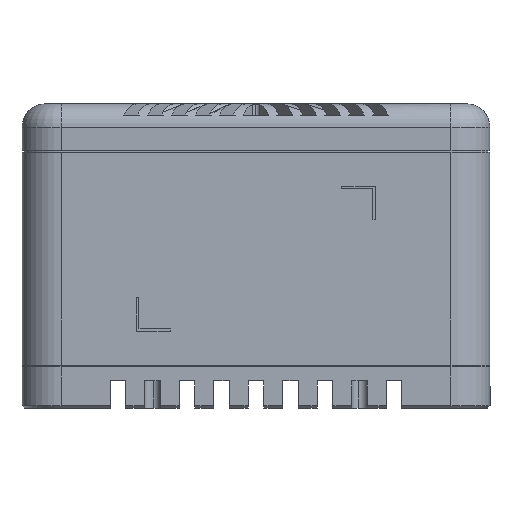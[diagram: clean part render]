
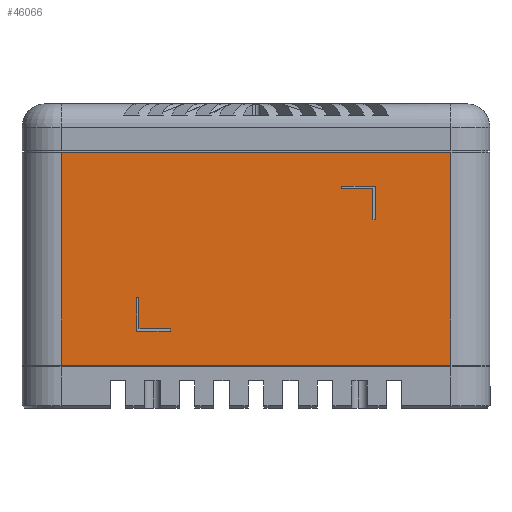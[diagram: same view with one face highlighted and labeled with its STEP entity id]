
A CAD part, left-side view. The second image highlights one B-rep face of the part: STEP entity #46066.
In plain terms, the highlighted planar face has unit normal (-1, 0, 0).
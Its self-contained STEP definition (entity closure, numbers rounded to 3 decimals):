
#241 = VERTEX_POINT ( 'NONE', #110512 ) ;
#2060 = ORIENTED_EDGE ( 'NONE', *, *, #101179, .F. ) ;
#3400 = CARTESIAN_POINT ( 'NONE',  ( -54., -15.3, 18.65 ) ) ;
#6216 = ORIENTED_EDGE ( 'NONE', *, *, #64865, .F. ) ;
#8512 = VECTOR ( 'NONE', #38533, 1000. ) ;
#9793 = DIRECTION ( 'NONE',  ( 0., 0., -1. ) ) ;
#10015 = EDGE_CURVE ( 'NONE', #115707, #59262, #60865, .T. ) ;
#10903 = CARTESIAN_POINT ( 'NONE',  ( -54., 25., 8.65 ) ) ;
#11805 = CARTESIAN_POINT ( 'NONE',  ( -54., -25., 0. ) ) ;
#12273 = VECTOR ( 'NONE', #9793, 1000. ) ;
#12637 = DIRECTION ( 'NONE',  ( 0., 0., 1. ) ) ;
#13362 = CARTESIAN_POINT ( 'NONE',  ( -54., 25., 0. ) ) ;
#13437 = CARTESIAN_POINT ( 'NONE',  ( -54., 15.3, 8.65 ) ) ;
#16083 = LINE ( 'NONE', #119983, #94906 ) ;
#19074 = LINE ( 'NONE', #134924, #53921 ) ;
#19569 = LINE ( 'NONE', #71590, #58634 ) ;
#20244 = EDGE_CURVE ( 'NONE', #25408, #153456, #19569, .T. ) ;
#20631 = VECTOR ( 'NONE', #88202, 1000. ) ;
#20897 = LINE ( 'NONE', #137582, #12273 ) ;
#22482 = VERTEX_POINT ( 'NONE', #114762 ) ;
#23496 = ORIENTED_EDGE ( 'NONE', *, *, #137175, .F. ) ;
#24924 = CARTESIAN_POINT ( 'NONE',  ( -54., -15., 18.65 ) ) ;
#25408 = VERTEX_POINT ( 'NONE', #24924 ) ;
#25427 = CARTESIAN_POINT ( 'NONE',  ( -54., 15., 27.5 ) ) ;
#25549 = CARTESIAN_POINT ( 'NONE',  ( -54., -15.3, 22.95 ) ) ;
#28804 = ORIENTED_EDGE ( 'NONE', *, *, #90377, .T. ) ;
#30237 = VERTEX_POINT ( 'NONE', #11805 ) ;
#31991 = ORIENTED_EDGE ( 'NONE', *, *, #83567, .F. ) ;
#34130 = VERTEX_POINT ( 'NONE', #122313 ) ;
#35080 = CARTESIAN_POINT ( 'NONE',  ( -54., -11., 22.95 ) ) ;
#37696 = VECTOR ( 'NONE', #113286, 1000. ) ;
#37736 = ORIENTED_EDGE ( 'NONE', *, *, #63156, .F. ) ;
#38244 = LINE ( 'NONE', #114845, #39236 ) ;
#38533 = DIRECTION ( 'NONE',  ( 0., 0., -1. ) ) ;
#39236 = VECTOR ( 'NONE', #116498, 1000. ) ;
#39948 = LINE ( 'NONE', #25427, #111758 ) ;
#40015 = VECTOR ( 'NONE', #133332, 1000. ) ;
#44671 = DIRECTION ( 'NONE',  ( 0., 1., 0. ) ) ;
#45536 = LINE ( 'NONE', #97368, #87741 ) ;
#46066 = ADVANCED_FACE ( 'NONE', ( #148279, #109952, #106572 ), #68315, .F. ) ;
#47174 = EDGE_CURVE ( 'NONE', #70917, #22482, #116228, .T. ) ;
#47613 = DIRECTION ( 'NONE',  ( 0., 1., 0. ) ) ;
#47824 = CARTESIAN_POINT ( 'NONE',  ( -54., 25., 4.65 ) ) ;
#48112 = CARTESIAN_POINT ( 'NONE',  ( -54., 25., 27.3 ) ) ;
#53362 = LINE ( 'NONE', #105224, #62004 ) ;
#53921 = VECTOR ( 'NONE', #135769, 1000. ) ;
#58634 = VECTOR ( 'NONE', #69889, 1000. ) ;
#59262 = VERTEX_POINT ( 'NONE', #69697 ) ;
#60024 = ORIENTED_EDGE ( 'NONE', *, *, #60736, .F. ) ;
#60591 = LINE ( 'NONE', #47824, #37696 ) ;
#60736 = EDGE_CURVE ( 'NONE', #84630, #70917, #95374, .T. ) ;
#60865 = LINE ( 'NONE', #48112, #74933 ) ;
#62004 = VECTOR ( 'NONE', #146082, 1000. ) ;
#63156 = EDGE_CURVE ( 'NONE', #153456, #104144, #123169, .T. ) ;
#64419 = CARTESIAN_POINT ( 'NONE',  ( -54., 25., 27.5 ) ) ;
#64865 = EDGE_CURVE ( 'NONE', #34130, #25408, #53362, .T. ) ;
#68315 = PLANE ( 'NONE',  #95207 ) ;
#68687 = VECTOR ( 'NONE', #147360, 1000. ) ;
#69697 = CARTESIAN_POINT ( 'NONE',  ( -54., -25., 27.3 ) ) ;
#69889 = DIRECTION ( 'NONE',  ( 0., -1., 0. ) ) ;
#70917 = VERTEX_POINT ( 'NONE', #119097 ) ;
#71590 = CARTESIAN_POINT ( 'NONE',  ( -54., 25., 18.65 ) ) ;
#72690 = EDGE_LOOP ( 'NONE', ( #141755, #28804, #82987, #155319 ) ) ;
#73008 = DIRECTION ( 'NONE',  ( 0., -1., 0. ) ) ;
#73866 = CARTESIAN_POINT ( 'NONE',  ( -54., -15.3, 27.5 ) ) ;
#74154 = ORIENTED_EDGE ( 'NONE', *, *, #85500, .F. ) ;
#74933 = VECTOR ( 'NONE', #112728, 1000. ) ;
#76079 = LINE ( 'NONE', #141562, #8512 ) ;
#77748 = EDGE_CURVE ( 'NONE', #22482, #95196, #60591, .T. ) ;
#81887 = VECTOR ( 'NONE', #168043, 1000. ) ;
#82666 = CARTESIAN_POINT ( 'NONE',  ( -54., 25., 4.35 ) ) ;
#82987 = ORIENTED_EDGE ( 'NONE', *, *, #101906, .T. ) ;
#83567 = EDGE_CURVE ( 'NONE', #88413, #241, #38244, .T. ) ;
#84630 = VERTEX_POINT ( 'NONE', #162136 ) ;
#85500 = EDGE_CURVE ( 'NONE', #104144, #88413, #45536, .T. ) ;
#87741 = VECTOR ( 'NONE', #44671, 1000. ) ;
#88202 = DIRECTION ( 'NONE',  ( 0., 0., 1. ) ) ;
#88413 = VERTEX_POINT ( 'NONE', #35080 ) ;
#90377 = EDGE_CURVE ( 'NONE', #115707, #98221, #117136, .T. ) ;
#92180 = ORIENTED_EDGE ( 'NONE', *, *, #129623, .F. ) ;
#93278 = ORIENTED_EDGE ( 'NONE', *, *, #47174, .F. ) ;
#94621 = DIRECTION ( 'NONE',  ( 1., 0., 0. ) ) ;
#94906 = VECTOR ( 'NONE', #73008, 1000. ) ;
#95196 = VERTEX_POINT ( 'NONE', #121924 ) ;
#95207 = AXIS2_PLACEMENT_3D ( 'NONE', #158440, #94621, #121034 ) ;
#95374 = LINE ( 'NONE', #82666, #68687 ) ;
#97368 = CARTESIAN_POINT ( 'NONE',  ( -54., 25., 22.95 ) ) ;
#98221 = VERTEX_POINT ( 'NONE', #13362 ) ;
#99288 = VERTEX_POINT ( 'NONE', #121043 ) ;
#101179 = EDGE_CURVE ( 'NONE', #241, #34130, #19074, .T. ) ;
#101906 = EDGE_CURVE ( 'NONE', #98221, #30237, #16083, .T. ) ;
#104144 = VERTEX_POINT ( 'NONE', #25549 ) ;
#105224 = CARTESIAN_POINT ( 'NONE',  ( -54., -15., 27.5 ) ) ;
#106572 = FACE_BOUND ( 'NONE', #115058, .T. ) ;
#106599 = CARTESIAN_POINT ( 'NONE',  ( -54., 11., 27.5 ) ) ;
#109952 = FACE_OUTER_BOUND ( 'NONE', #72690, .T. ) ;
#110310 = EDGE_CURVE ( 'NONE', #99288, #159201, #137849, .T. ) ;
#110512 = CARTESIAN_POINT ( 'NONE',  ( -54., -11., 22.65 ) ) ;
#111758 = VECTOR ( 'NONE', #12637, 1000. ) ;
#112728 = DIRECTION ( 'NONE',  ( 0., -1., 0. ) ) ;
#113286 = DIRECTION ( 'NONE',  ( 0., 1., 0. ) ) ;
#114762 = CARTESIAN_POINT ( 'NONE',  ( -54., 11., 4.65 ) ) ;
#114845 = CARTESIAN_POINT ( 'NONE',  ( -54., -11., 27.5 ) ) ;
#115058 = EDGE_LOOP ( 'NONE', ( #92180, #130383, #93278, #60024, #23496, #141647 ) ) ;
#115707 = VERTEX_POINT ( 'NONE', #166781 ) ;
#116228 = LINE ( 'NONE', #106599, #81887 ) ;
#116498 = DIRECTION ( 'NONE',  ( 0., 0., -1. ) ) ;
#116992 = EDGE_LOOP ( 'NONE', ( #2060, #31991, #74154, #37736, #127825, #6216 ) ) ;
#117136 = LINE ( 'NONE', #64419, #40015 ) ;
#119097 = CARTESIAN_POINT ( 'NONE',  ( -54., 11., 4.35 ) ) ;
#119983 = CARTESIAN_POINT ( 'NONE',  ( -54., 25., 0. ) ) ;
#121034 = DIRECTION ( 'NONE',  ( 0., 1., 0. ) ) ;
#121043 = CARTESIAN_POINT ( 'NONE',  ( -54., 15., 8.65 ) ) ;
#121924 = CARTESIAN_POINT ( 'NONE',  ( -54., 15., 4.65 ) ) ;
#122313 = CARTESIAN_POINT ( 'NONE',  ( -54., -15., 22.65 ) ) ;
#123169 = LINE ( 'NONE', #73866, #20631 ) ;
#127825 = ORIENTED_EDGE ( 'NONE', *, *, #20244, .F. ) ;
#129623 = EDGE_CURVE ( 'NONE', #95196, #99288, #39948, .T. ) ;
#130383 = ORIENTED_EDGE ( 'NONE', *, *, #77748, .F. ) ;
#133332 = DIRECTION ( 'NONE',  ( 0., 0., -1. ) ) ;
#134924 = CARTESIAN_POINT ( 'NONE',  ( -54., 25., 22.65 ) ) ;
#135769 = DIRECTION ( 'NONE',  ( 0., -1., 0. ) ) ;
#137175 = EDGE_CURVE ( 'NONE', #159201, #84630, #20897, .T. ) ;
#137582 = CARTESIAN_POINT ( 'NONE',  ( -54., 15.3, 27.5 ) ) ;
#137849 = LINE ( 'NONE', #10903, #164845 ) ;
#141562 = CARTESIAN_POINT ( 'NONE',  ( -54., -25., 27.5 ) ) ;
#141647 = ORIENTED_EDGE ( 'NONE', *, *, #110310, .F. ) ;
#141755 = ORIENTED_EDGE ( 'NONE', *, *, #10015, .F. ) ;
#146082 = DIRECTION ( 'NONE',  ( 0., 0., -1. ) ) ;
#147360 = DIRECTION ( 'NONE',  ( 0., -1., 0. ) ) ;
#148279 = FACE_BOUND ( 'NONE', #116992, .T. ) ;
#153456 = VERTEX_POINT ( 'NONE', #3400 ) ;
#155319 = ORIENTED_EDGE ( 'NONE', *, *, #164647, .F. ) ;
#158440 = CARTESIAN_POINT ( 'NONE',  ( -54., 25., 27.5 ) ) ;
#159201 = VERTEX_POINT ( 'NONE', #13437 ) ;
#162136 = CARTESIAN_POINT ( 'NONE',  ( -54., 15.3, 4.35 ) ) ;
#164647 = EDGE_CURVE ( 'NONE', #59262, #30237, #76079, .T. ) ;
#164845 = VECTOR ( 'NONE', #47613, 1000. ) ;
#166781 = CARTESIAN_POINT ( 'NONE',  ( -54., 25., 27.3 ) ) ;
#168043 = DIRECTION ( 'NONE',  ( 0., 0., 1. ) ) ;
